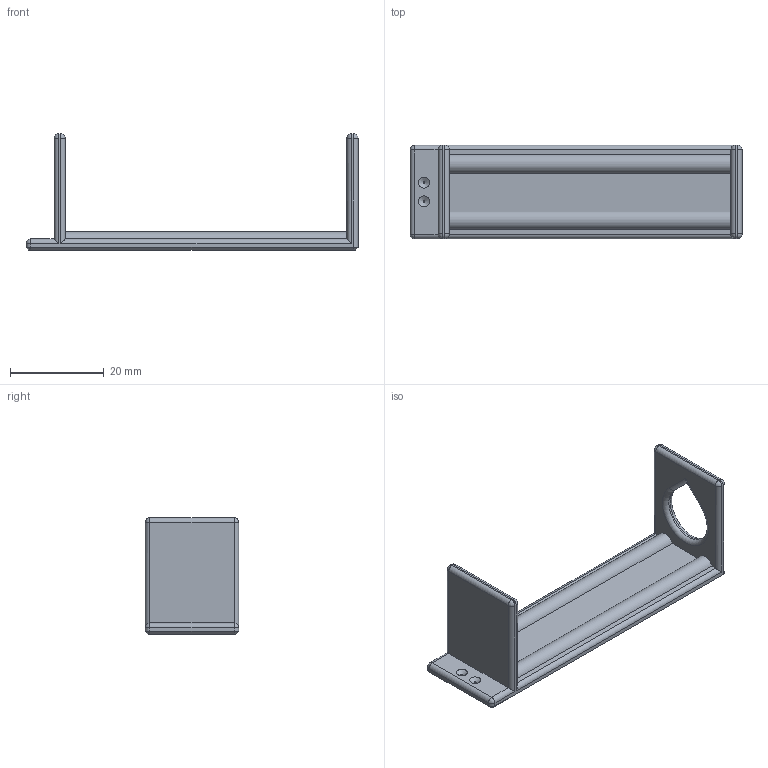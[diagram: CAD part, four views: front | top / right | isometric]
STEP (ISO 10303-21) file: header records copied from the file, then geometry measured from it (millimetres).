
FILE_DESCRIPTION(('Open CASCADE Model'),'2;1');
FILE_NAME('Open CASCADE Shape Model','2026-10-12T20:43:39',('Author'),( 'Open CASCADE'),'Open CASCADE STEP processor 8.0','build123d', 'Unknown');
FILE_SCHEMA(('AUTOMOTIVE_DESIGN { 1 0 10303 214 1 1 1 1 }'));
Length unit declared in the file: millimetre
Products named in the file (1): COMPOUND
Bounding box: 71 x 20 x 24.9 mm (x, y, z)
Volume: 5652.5 mm3; surface area: 5016.4 mm2
Topology: 1 solids, 1 shells, 70 faces, 158 edges, 82 vertices
Faces by surface type: cylinder 30, plane 22, sphere 10, cone 6, torus 2
Entity records: 3779 total; most frequent: CARTESIAN_POINT 827, DIRECTION 539, ORIENTED_EDGE 296, PCURVE 296, DEFINITIONAL_REPRESENTATION 296, LINE 264, VECTOR 264, EDGE_CURVE 148
